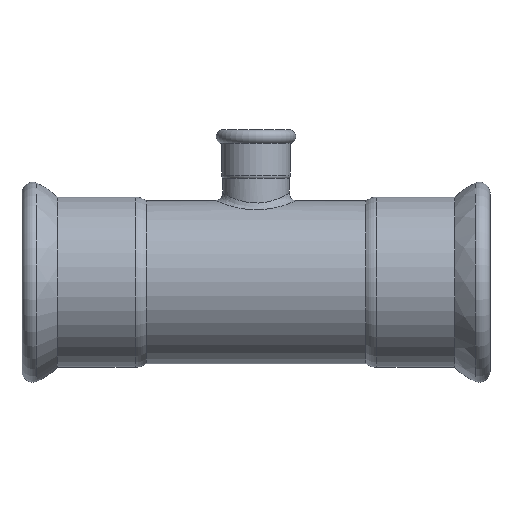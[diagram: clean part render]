
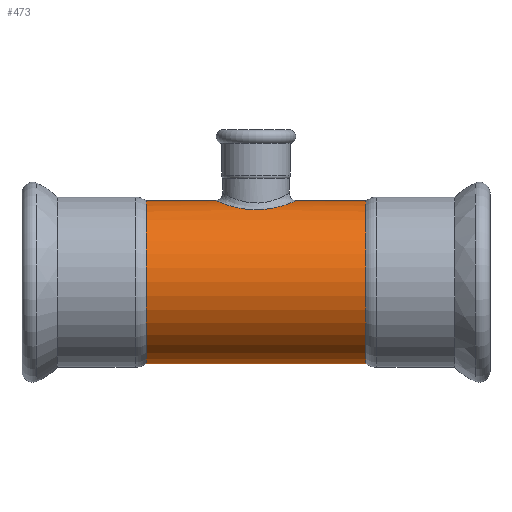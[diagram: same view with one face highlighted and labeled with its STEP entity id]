
A CAD part, front view. The second image highlights one B-rep face of the part: STEP entity #473.
In plain terms, the highlighted cylindrical face has radius 54 mm (diameter 108 mm), a full revolution.
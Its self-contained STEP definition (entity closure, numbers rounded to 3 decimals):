
#20=B_SPLINE_CURVE_WITH_KNOTS($,3,(#1333,#1334,#1335,#1336,#1337,#1338,
#1339,#1340,#1341,#1342,#1343,#1344,#1345,#1346,#1347,#1348,#1349,#1350,
#1351,#1352,#1353,#1354,#1355,#1356,#1357,#1358,#1359,#1360,#1361,#1362,
#1363,#1364,#1365,#1366),.UNSPECIFIED.,.T.,.F.,(4,1,1,1,1,1,1,1,1,1,1,1,
1,1,1,1,1,1,1,1,1,1,1,1,1,1,1,1,3,4),(-13.431,-13.071,
-12.951,-12.471,-11.992,-11.632,
-11.512,-10.873,-10.233,-9.753,
-9.593,-8.954,-8.314,-7.675,
-7.515,-7.035,-6.396,-6.076,
-5.836,-5.756,-4.477,-3.837,
-3.598,-2.878,-2.398,-1.919,
-0.959,-0.48,0.,0.),
 .UNSPECIFIED.);
#58=FACE_BOUND($,#176,.T.);
#59=FACE_BOUND($,#177,.T.);
#89=CYLINDRICAL_SURFACE($,#543,54.);
#118=FACE_OUTER_BOUND($,#175,.T.);
#175=EDGE_LOOP($,(#408));
#176=EDGE_LOOP($,(#409));
#177=EDGE_LOOP($,(#410));
#245=CIRCLE($,#544,54.);
#246=CIRCLE($,#545,54.);
#288=VERTEX_POINT($,#1296);
#290=VERTEX_POINT($,#1369);
#291=VERTEX_POINT($,#1371);
#338=EDGE_CURVE($,#288,#288,#20,.T.);
#339=EDGE_CURVE($,#290,#290,#245,.T.);
#340=EDGE_CURVE($,#291,#291,#246,.T.);
#408=ORIENTED_EDGE($,*,*,#339,.T.);
#409=ORIENTED_EDGE($,*,*,#340,.F.);
#410=ORIENTED_EDGE($,*,*,#338,.F.);
#473=ADVANCED_FACE($,(#118,#58,#59),#89,.T.);
#543=AXIS2_PLACEMENT_3D($,#1368,#673,#674);
#544=AXIS2_PLACEMENT_3D($,#1370,#675,#676);
#545=AXIS2_PLACEMENT_3D($,#1372,#677,#678);
#673=DIRECTION('center_axis',(1.,0.,0.));
#674=DIRECTION('ref_axis',(0.,1.,0.));
#675=DIRECTION('center_axis',(1.,0.,0.));
#676=DIRECTION('ref_axis',(0.,1.,0.));
#677=DIRECTION('center_axis',(1.,0.,0.));
#678=DIRECTION('ref_axis',(0.,1.,0.));
#1296=CARTESIAN_POINT('',(-155.,24.712,48.014));
#1333=CARTESIAN_POINT('Ctrl Pts',(-155.,24.712,48.014));
#1334=CARTESIAN_POINT('Ctrl Pts',(-156.528,24.712,48.014));
#1335=CARTESIAN_POINT('Ctrl Pts',(-158.572,24.553,48.096));
#1336=CARTESIAN_POINT('Ctrl Pts',(-162.58,23.814,48.468));
#1337=CARTESIAN_POINT('Ctrl Pts',(-166.872,22.426,49.147));
#1338=CARTESIAN_POINT('Ctrl Pts',(-171.583,19.699,50.314));
#1339=CARTESIAN_POINT('Ctrl Pts',(-174.462,17.206,51.202));
#1340=CARTESIAN_POINT('Ctrl Pts',(-177.485,13.944,52.214));
#1341=CARTESIAN_POINT('Ctrl Pts',(-180.458,9.29,53.352));
#1342=CARTESIAN_POINT('Ctrl Pts',(-182.191,2.51,54.082));
#1343=CARTESIAN_POINT('Ctrl Pts',(-181.97,-2.511,53.986));
#1344=CARTESIAN_POINT('Ctrl Pts',(-180.949,-7.4,53.565));
#1345=CARTESIAN_POINT('Ctrl Pts',(-178.673,-12.636,52.641));
#1346=CARTESIAN_POINT('Ctrl Pts',(-173.622,-18.381,50.866));
#1347=CARTESIAN_POINT('Ctrl Pts',(-168.65,-21.509,49.549));
#1348=CARTESIAN_POINT('Ctrl Pts',(-163.702,-23.499,48.628));
#1349=CARTESIAN_POINT('Ctrl Pts',(-158.452,-24.802,47.969));
#1350=CARTESIAN_POINT('Ctrl Pts',(-152.229,-24.807,47.966));
#1351=CARTESIAN_POINT('Ctrl Pts',(-147.248,-23.745,48.504));
#1352=CARTESIAN_POINT('Ctrl Pts',(-144.737,-22.884,48.914));
#1353=CARTESIAN_POINT('Ctrl Pts',(-138.63,-20.299,50.097));
#1354=CARTESIAN_POINT('Ctrl Pts',(-132.337,-14.949,52.235));
#1355=CARTESIAN_POINT('Ctrl Pts',(-128.926,-7.116,53.614));
#1356=CARTESIAN_POINT('Ctrl Pts',(-127.767,-0.946,
54.098));
#1357=CARTESIAN_POINT('Ctrl Pts',(-128.121,4.732,53.944));
#1358=CARTESIAN_POINT('Ctrl Pts',(-130.529,10.924,52.965));
#1359=CARTESIAN_POINT('Ctrl Pts',(-134.836,17.138,51.369));
#1360=CARTESIAN_POINT('Ctrl Pts',(-141.203,21.8,49.454));
#1361=CARTESIAN_POINT('Ctrl Pts',(-148.859,24.281,48.239));
#1362=CARTESIAN_POINT('Ctrl Pts',(-152.961,24.712,48.013));
#1363=CARTESIAN_POINT('Ctrl Pts',(-154.999,24.712,48.014));
#1364=CARTESIAN_POINT('Ctrl Pts',(-154.999,24.712,48.014));
#1365=CARTESIAN_POINT('Ctrl Pts',(-155.,24.712,48.014));
#1366=CARTESIAN_POINT('Ctrl Pts',(-155.,24.712,48.014));
#1368=CARTESIAN_POINT('Origin',(-218.9,0.,0.));
#1369=CARTESIAN_POINT('',(-227.8,54.,0.));
#1370=CARTESIAN_POINT('Origin',(-227.8,0.,0.));
#1371=CARTESIAN_POINT('',(-82.2,54.,0.));
#1372=CARTESIAN_POINT('Origin',(-82.2,0.,0.));
